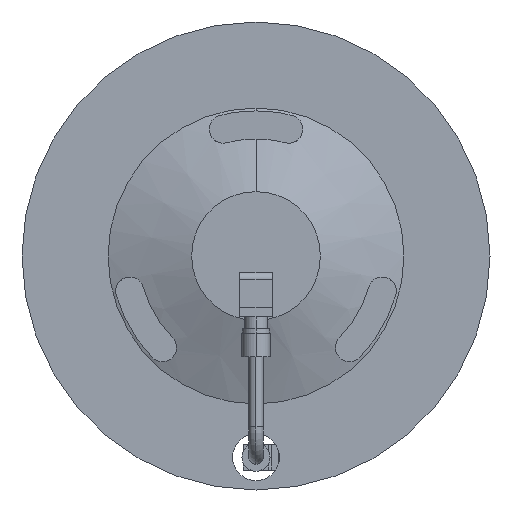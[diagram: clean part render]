
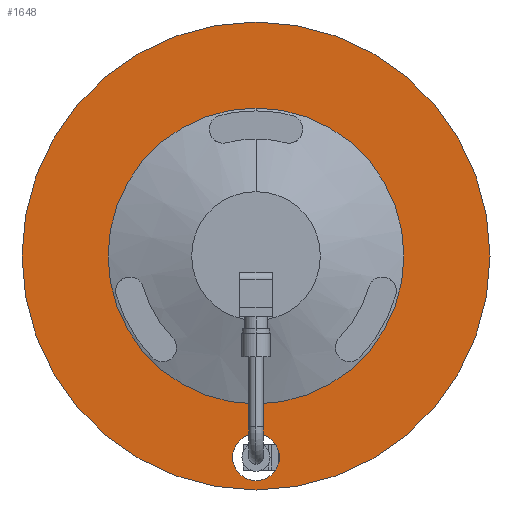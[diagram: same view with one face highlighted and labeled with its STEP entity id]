
A CAD part, front view. The second image highlights one B-rep face of the part: STEP entity #1648.
In plain terms, the highlighted planar face has unit normal (0, -1, 0).
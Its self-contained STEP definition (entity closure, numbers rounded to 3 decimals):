
#158 = CARTESIAN_POINT ( 'NONE',  ( -100., -129.3, 0. ) ) ;
#344 = CARTESIAN_POINT ( 'NONE',  ( 0., -129.3, -100. ) ) ;
#772 = DIRECTION ( 'NONE',  ( 0., 0., 1. ) ) ;
#810 = CARTESIAN_POINT ( 'NONE',  ( 0., -129.3, 100. ) ) ;
#1195 = EDGE_CURVE ( 'NONE', #1713, #9749, #12005, .T. ) ;
#1364 = CARTESIAN_POINT ( 'NONE',  ( 0., -129.3, -96. ) ) ;
#1453 = AXIS2_PLACEMENT_3D ( 'NONE', #5158, #3148, #7907 ) ;
#1519 = DIRECTION ( 'NONE',  ( 0., 0., 1. ) ) ;
#1648 = ADVANCED_FACE ( 'NONE', ( #9932, #8154, #5090 ), #5923, .T. ) ;
#1705 = ORIENTED_EDGE ( 'NONE', *, *, #5209, .F. ) ;
#1713 = VERTEX_POINT ( 'NONE', #1364 ) ;
#1725 = DIRECTION ( 'NONE',  ( 0., 0., -1. ) ) ;
#1858 = AXIS2_PLACEMENT_3D ( 'NONE', #5041, #10842, #7984 ) ;
#2343 = AXIS2_PLACEMENT_3D ( 'NONE', #6941, #7897, #4897 ) ;
#2442 = EDGE_CURVE ( 'NONE', #11770, #10867, #11300, .T. ) ;
#2735 = DIRECTION ( 'NONE',  ( 0., -1., 0. ) ) ;
#3148 = DIRECTION ( 'NONE',  ( 0., -1., 0. ) ) ;
#3183 = ORIENTED_EDGE ( 'NONE', *, *, #12471, .F. ) ;
#3184 = EDGE_LOOP ( 'NONE', ( #6902, #3183 ) ) ;
#4481 = CARTESIAN_POINT ( 'NONE',  ( 0., -129.3, 0. ) ) ;
#4647 = CIRCLE ( 'NONE', #1453, 10. ) ;
#4897 = DIRECTION ( 'NONE',  ( 0., 0., -1. ) ) ;
#5041 = CARTESIAN_POINT ( 'NONE',  ( 0., -129.3, -86. ) ) ;
#5090 = FACE_OUTER_BOUND ( 'NONE', #3184, .T. ) ;
#5158 = CARTESIAN_POINT ( 'NONE',  ( 0., -129.3, -86. ) ) ;
#5209 = EDGE_CURVE ( 'NONE', #9749, #1713, #4647, .T. ) ;
#5273 = AXIS2_PLACEMENT_3D ( 'NONE', #11571, #9460, #772 ) ;
#5374 = EDGE_LOOP ( 'NONE', ( #5455, #8912 ) ) ;
#5455 = ORIENTED_EDGE ( 'NONE', *, *, #12279, .F. ) ;
#5472 = CIRCLE ( 'NONE', #5273, 100. ) ;
#5914 = AXIS2_PLACEMENT_3D ( 'NONE', #158, #6120, #8980 ) ;
#5923 = PLANE ( 'NONE',  #5914 ) ;
#6120 = DIRECTION ( 'NONE',  ( 0., -1., 0. ) ) ;
#6231 = EDGE_LOOP ( 'NONE', ( #1705, #9497 ) ) ;
#6902 = ORIENTED_EDGE ( 'NONE', *, *, #2442, .F. ) ;
#6941 = CARTESIAN_POINT ( 'NONE',  ( 0., -129.3, 0. ) ) ;
#7277 = DIRECTION ( 'NONE',  ( 0., 1., 0. ) ) ;
#7897 = DIRECTION ( 'NONE',  ( 0., -1., 0. ) ) ;
#7907 = DIRECTION ( 'NONE',  ( 0., 0., -1. ) ) ;
#7984 = DIRECTION ( 'NONE',  ( 0., 0., -1. ) ) ;
#8154 = FACE_BOUND ( 'NONE', #5374, .T. ) ;
#8202 = AXIS2_PLACEMENT_3D ( 'NONE', #12264, #2735, #1725 ) ;
#8508 = CARTESIAN_POINT ( 'NONE',  ( 0., -129.3, -63.217 ) ) ;
#8576 = CARTESIAN_POINT ( 'NONE',  ( 0., -129.3, -76. ) ) ;
#8623 = CIRCLE ( 'NONE', #2343, 63.217 ) ;
#8912 = ORIENTED_EDGE ( 'NONE', *, *, #9730, .F. ) ;
#8980 = DIRECTION ( 'NONE',  ( 0., 0., -1. ) ) ;
#9460 = DIRECTION ( 'NONE',  ( 0., 1., 0. ) ) ;
#9497 = ORIENTED_EDGE ( 'NONE', *, *, #1195, .F. ) ;
#9730 = EDGE_CURVE ( 'NONE', #9751, #11598, #11216, .T. ) ;
#9749 = VERTEX_POINT ( 'NONE', #8576 ) ;
#9751 = VERTEX_POINT ( 'NONE', #8508 ) ;
#9932 = FACE_BOUND ( 'NONE', #6231, .T. ) ;
#10842 = DIRECTION ( 'NONE',  ( 0., -1., 0. ) ) ;
#10867 = VERTEX_POINT ( 'NONE', #344 ) ;
#11216 = CIRCLE ( 'NONE', #8202, 63.217 ) ;
#11220 = CARTESIAN_POINT ( 'NONE',  ( 0., -129.3, 63.217 ) ) ;
#11300 = CIRCLE ( 'NONE', #11920, 100. ) ;
#11571 = CARTESIAN_POINT ( 'NONE',  ( 0., -129.3, 0. ) ) ;
#11598 = VERTEX_POINT ( 'NONE', #11220 ) ;
#11770 = VERTEX_POINT ( 'NONE', #810 ) ;
#11920 = AXIS2_PLACEMENT_3D ( 'NONE', #4481, #7277, #1519 ) ;
#12005 = CIRCLE ( 'NONE', #1858, 10. ) ;
#12264 = CARTESIAN_POINT ( 'NONE',  ( 0., -129.3, 0. ) ) ;
#12279 = EDGE_CURVE ( 'NONE', #11598, #9751, #8623, .T. ) ;
#12471 = EDGE_CURVE ( 'NONE', #10867, #11770, #5472, .T. ) ;
